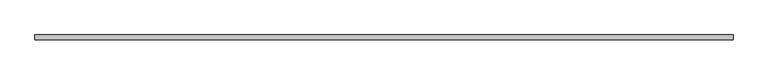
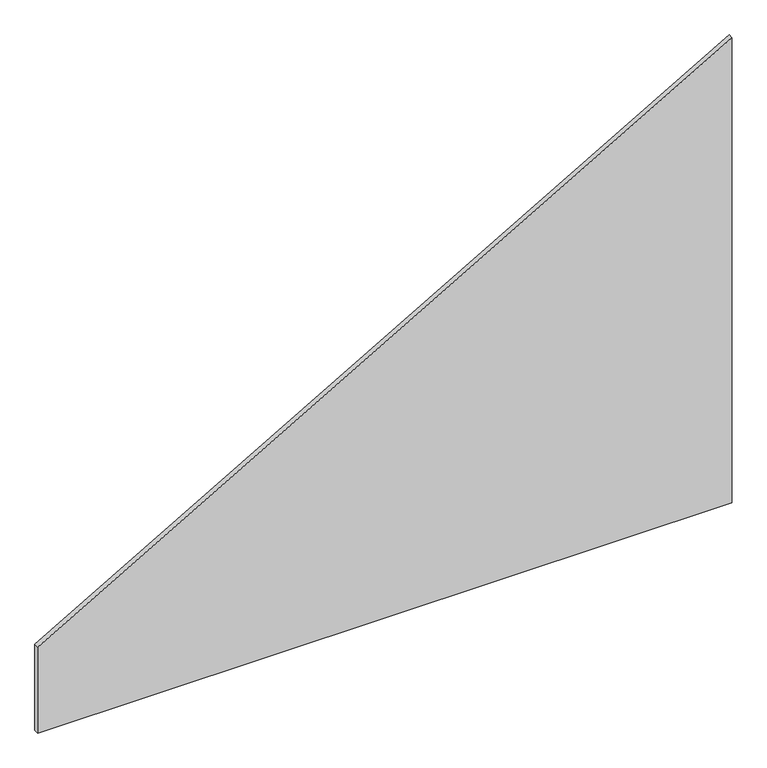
"""IFC4 building model written with IfcOpenShell, lengths in millimetres: plate geometry, 系統嵌板 : 玻璃 1.0cm."""

from ifc_helpers import new_model, si_unit, frame, origin, place, context, project, spatial, polyline, outline, extrude, source, transform, mapped, element, save


def plate_b21344c3(model_context):
    return source(origin(), model_context, "Body", "SweptSolid", [
        extrude(outline(polyline([(0.0, -750.0), (0.0, 750.0), (1062.1778265, 750.0), (196.1524227, -750.0), (0.0, -750.0)])), frame((0.0, -5.0, 0.0), z_axis=(0.0, 1.0, 0.0), x_axis=(0.0, 0.0, 1.0)), (0.0, 0.0, 1.0), 10.0),
    ])


if __name__ == "__main__":
    model = new_model("IFC4")
    model_context = context("Model", 3, world=origin())
    ifc_project = project(units=[si_unit("LENGTHUNIT", "METRE", prefix="MILLI")], contexts=[model_context])
    site = spatial("IfcSite", under=ifc_project)
    building = spatial("IfcBuilding", under=site)
    placement = place(None, origin())
    plate_shape = plate_b21344c3(model_context)
    element("IfcPlate", 1, ObjectType="系統嵌板 : 玻璃 1.0cm", at=placement, inside=building, context=model_context, shape_type="MappedRepresentation", body=[
        mapped(plate_shape, transform((0.0, 0.0, 0.0), x_axis=(1.0, 0.0, 0.0), y_axis=(0.0, 1.0, 0.0), z_axis=(0.0, 0.0, 1.0))),
    ])
    save(model, "model.ifc")
